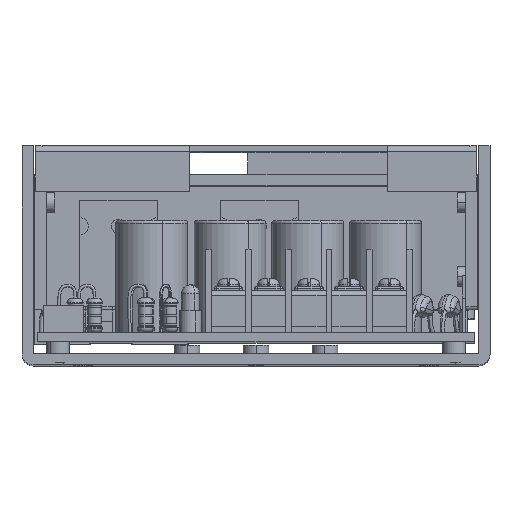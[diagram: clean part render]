
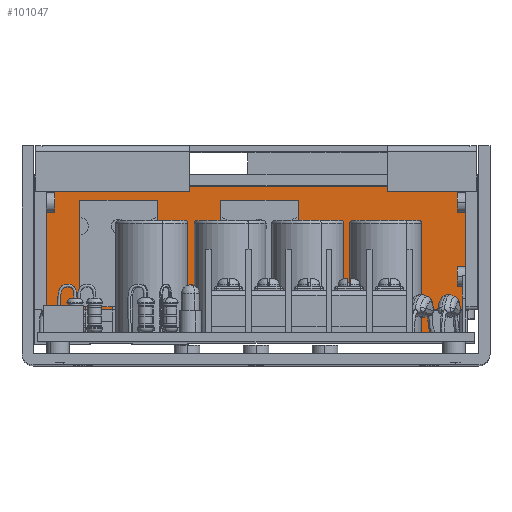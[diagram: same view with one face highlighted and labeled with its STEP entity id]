
A CAD part, top view. The second image highlights one B-rep face of the part: STEP entity #101047.
In plain terms, the highlighted planar face has unit normal (0, 0, 1).
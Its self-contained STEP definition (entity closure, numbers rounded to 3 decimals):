
#11122 = LINE ( 'NONE', #17804, #16695 ) ;
#11127 = LINE ( 'NONE', #17820, #16705 ) ;
#11142 = LINE ( 'NONE', #17871, #16734 ) ;
#16640 = CIRCLE ( 'NONE', #16642, 1.25 ) ;
#16642 = AXIS2_PLACEMENT_3D ( 'NONE', #17713, #17714, #17715 ) ;
#16646 = CIRCLE ( 'NONE', #16648, 1.25 ) ;
#16648 = AXIS2_PLACEMENT_3D ( 'NONE', #17723, #17724, #17725 ) ;
#16695 = VECTOR ( 'NONE', #17805, 1000. ) ;
#16705 = VECTOR ( 'NONE', #17821, 1000. ) ;
#16734 = VECTOR ( 'NONE', #17872, 1000. ) ;
#17085 = AXIS2_PLACEMENT_3D ( 'NONE', #21227, #21228, #21229 ) ;
#17130 = VECTOR ( 'NONE', #21356, 1000. ) ;
#17203 = CIRCLE ( 'NONE', #17241, 0.5 ) ;
#17212 = CIRCLE ( 'NONE', #17240, 1.25 ) ;
#17221 = CIRCLE ( 'NONE', #17238, 1.25 ) ;
#17238 = AXIS2_PLACEMENT_3D ( 'NONE', #21542, #21543, #21544 ) ;
#17240 = AXIS2_PLACEMENT_3D ( 'NONE', #21545, #21546, #21547 ) ;
#17241 = AXIS2_PLACEMENT_3D ( 'NONE', #21548, #21549, #21550 ) ;
#17242 = VECTOR ( 'NONE', #21552, 1000. ) ;
#17243 = CIRCLE ( 'NONE', #17248, 0.5 ) ;
#17245 = VECTOR ( 'NONE', #21556, 1000. ) ;
#17248 = AXIS2_PLACEMENT_3D ( 'NONE', #21559, #21560, #21561 ) ;
#17249 = VECTOR ( 'NONE', #21563, 1000. ) ;
#17251 = VECTOR ( 'NONE', #21567, 1000. ) ;
#17254 = VECTOR ( 'NONE', #21573, 1000. ) ;
#17256 = VECTOR ( 'NONE', #21577, 1000. ) ;
#17713 = CARTESIAN_POINT ( 'NONE',  ( -11.382, 7.232, 31.2 ) ) ;
#17714 = DIRECTION ( 'NONE',  ( 0., 0., -1. ) ) ;
#17715 = DIRECTION ( 'NONE',  ( 0., 1., 0. ) ) ;
#17723 = CARTESIAN_POINT ( 'NONE',  ( -35.882, 7.232, 31.2 ) ) ;
#17724 = DIRECTION ( 'NONE',  ( 0., 0., -1. ) ) ;
#17725 = DIRECTION ( 'NONE',  ( 0., 1., 0. ) ) ;
#17804 = CARTESIAN_POINT ( 'NONE',  ( 24.518, 16.232, 31.2 ) ) ;
#17805 = DIRECTION ( 'NONE',  ( 0., -1., 0. ) ) ;
#17820 = CARTESIAN_POINT ( 'NONE',  ( -48.482, 16.232, 31.2 ) ) ;
#17821 = DIRECTION ( 'NONE',  ( 0., -1., 0. ) ) ;
#17871 = CARTESIAN_POINT ( 'NONE',  ( -48.482, -7.268, 31.2 ) ) ;
#17872 = DIRECTION ( 'NONE',  ( 1., 0., 0. ) ) ;
#19959 = FACE_BOUND ( 'NONE', #155022, .T. ) ;
#19960 = FACE_BOUND ( 'NONE', #155025, .T. ) ;
#19961 = FACE_OUTER_BOUND ( 'NONE', #155027, .T. ) ;
#20020 = LINE ( 'NONE', #21355, #17130 ) ;
#20079 = LINE ( 'NONE', #21551, #17242 ) ;
#20081 = LINE ( 'NONE', #21555, #17245 ) ;
#20083 = LINE ( 'NONE', #21562, #17249 ) ;
#20085 = LINE ( 'NONE', #21566, #17251 ) ;
#20088 = LINE ( 'NONE', #21572, #17254 ) ;
#20090 = LINE ( 'NONE', #21576, #17256 ) ;
#21226 = PLANE ( 'NONE',  #17085 ) ;
#21227 = CARTESIAN_POINT ( 'NONE',  ( -48.482, 16.232, 31.2 ) ) ;
#21228 = DIRECTION ( 'NONE',  ( 0., 0., -1. ) ) ;
#21229 = DIRECTION ( 'NONE',  ( 0., 1., 0. ) ) ;
#21355 = CARTESIAN_POINT ( 'NONE',  ( -48.482, -7.268, 31.2 ) ) ;
#21356 = DIRECTION ( 'NONE',  ( 1., 0., 0. ) ) ;
#21542 = CARTESIAN_POINT ( 'NONE',  ( -11.382, 7.232, 31.2 ) ) ;
#21543 = DIRECTION ( 'NONE',  ( 0., 0., -1. ) ) ;
#21544 = DIRECTION ( 'NONE',  ( 0., 1., 0. ) ) ;
#21545 = CARTESIAN_POINT ( 'NONE',  ( -35.882, 7.232, 31.2 ) ) ;
#21546 = DIRECTION ( 'NONE',  ( 0., 0., -1. ) ) ;
#21547 = DIRECTION ( 'NONE',  ( 0., 1., 0. ) ) ;
#21548 = CARTESIAN_POINT ( 'NONE',  ( 16.199, -10.768, 31.2 ) ) ;
#21549 = DIRECTION ( 'NONE',  ( 0., 0., 1. ) ) ;
#21550 = DIRECTION ( 'NONE',  ( 0., 1., 0. ) ) ;
#21551 = CARTESIAN_POINT ( 'NONE',  ( 15.699, -11.268, 31.2 ) ) ;
#21552 = DIRECTION ( 'NONE',  ( 0., 1., 0. ) ) ;
#21555 = CARTESIAN_POINT ( 'NONE',  ( 15.699, -11.268, 31.2 ) ) ;
#21556 = DIRECTION ( 'NONE',  ( -1., 0., 0. ) ) ;
#21559 = CARTESIAN_POINT ( 'NONE',  ( 18.199, -10.768, 31.2 ) ) ;
#21560 = DIRECTION ( 'NONE',  ( 0., 0., 1. ) ) ;
#21561 = DIRECTION ( 'NONE',  ( 0., 1., 0. ) ) ;
#21562 = CARTESIAN_POINT ( 'NONE',  ( 18.699, -11.268, 31.2 ) ) ;
#21563 = DIRECTION ( 'NONE',  ( 0., 1., 0. ) ) ;
#21566 = CARTESIAN_POINT ( 'NONE',  ( -48.482, 14.232, 31.2 ) ) ;
#21567 = DIRECTION ( 'NONE',  ( -1., 0., 0. ) ) ;
#21572 = CARTESIAN_POINT ( 'NONE',  ( -46.482, 14.232, 31.2 ) ) ;
#21573 = DIRECTION ( 'NONE',  ( 1., 0., 0. ) ) ;
#21576 = CARTESIAN_POINT ( 'NONE',  ( -48.482, 14.232, 31.2 ) ) ;
#21577 = DIRECTION ( 'NONE',  ( -1., 0., 0. ) ) ;
#73878 = CARTESIAN_POINT ( 'NONE',  ( -11.382, 5.982, 31.2 ) ) ;
#73879 = CARTESIAN_POINT ( 'NONE',  ( -11.382, 8.482, 31.2 ) ) ;
#73882 = CARTESIAN_POINT ( 'NONE',  ( -35.882, 5.982, 31.2 ) ) ;
#73883 = CARTESIAN_POINT ( 'NONE',  ( -35.882, 8.482, 31.2 ) ) ;
#73916 = CARTESIAN_POINT ( 'NONE',  ( 24.518, 14.232, 31.2 ) ) ;
#73917 = CARTESIAN_POINT ( 'NONE',  ( 24.518, -7.268, 31.2 ) ) ;
#73922 = CARTESIAN_POINT ( 'NONE',  ( -48.482, -7.268, 31.2 ) ) ;
#73923 = CARTESIAN_POINT ( 'NONE',  ( -48.482, 14.232, 31.2 ) ) ;
#73941 = CARTESIAN_POINT ( 'NONE',  ( 15.699, -7.268, 31.2 ) ) ;
#73944 = CARTESIAN_POINT ( 'NONE',  ( 18.699, -7.268, 31.2 ) ) ;
#73998 = CARTESIAN_POINT ( 'NONE',  ( 15.699, -10.768, 31.2 ) ) ;
#73999 = CARTESIAN_POINT ( 'NONE',  ( 16.199, -11.268, 31.2 ) ) ;
#74000 = CARTESIAN_POINT ( 'NONE',  ( 18.199, -11.268, 31.2 ) ) ;
#74001 = CARTESIAN_POINT ( 'NONE',  ( 18.699, -10.768, 31.2 ) ) ;
#74002 = CARTESIAN_POINT ( 'NONE',  ( 22.518, 14.232, 31.2 ) ) ;
#74003 = CARTESIAN_POINT ( 'NONE',  ( -46.482, 14.232, 31.2 ) ) ;
#97116 = EDGE_CURVE ( 'NONE', #156683, #156684, #16640, .T. ) ;
#97120 = EDGE_CURVE ( 'NONE', #156687, #156688, #16646, .T. ) ;
#97154 = EDGE_CURVE ( 'NONE', #156721, #156722, #11122, .T. ) ;
#97161 = EDGE_CURVE ( 'NONE', #156728, #156727, #11127, .T. ) ;
#97183 = EDGE_CURVE ( 'NONE', #156727, #156746, #11142, .T. ) ;
#100126 = ORIENTED_EDGE ( 'NONE', *, *, #101174, .T. ) ;
#100130 = ORIENTED_EDGE ( 'NONE', *, *, #101173, .T. ) ;
#100136 = ORIENTED_EDGE ( 'NONE', *, *, #101176, .F. ) ;
#100139 = ORIENTED_EDGE ( 'NONE', *, *, #97116, .T. ) ;
#100147 = ORIENTED_EDGE ( 'NONE', *, *, #97120, .T. ) ;
#100153 = ORIENTED_EDGE ( 'NONE', *, *, #101178, .F. ) ;
#100157 = ORIENTED_EDGE ( 'NONE', *, *, #101175, .T. ) ;
#100160 = ORIENTED_EDGE ( 'NONE', *, *, #101180, .T. ) ;
#100165 = ORIENTED_EDGE ( 'NONE', *, *, #101181, .T. ) ;
#100168 = ORIENTED_EDGE ( 'NONE', *, *, #101091, .T. ) ;
#100173 = ORIENTED_EDGE ( 'NONE', *, *, #101183, .T. ) ;
#100176 = ORIENTED_EDGE ( 'NONE', *, *, #97154, .F. ) ;
#100181 = ORIENTED_EDGE ( 'NONE', *, *, #101188, .T. ) ;
#100183 = ORIENTED_EDGE ( 'NONE', *, *, #101186, .F. ) ;
#100187 = ORIENTED_EDGE ( 'NONE', *, *, #97161, .T. ) ;
#100195 = ORIENTED_EDGE ( 'NONE', *, *, #97183, .T. ) ;
#101047 = ADVANCED_FACE ( 'NONE', ( #19959, #19960, #19961 ), #21226, .F. ) ;
#101091 = EDGE_CURVE ( 'NONE', #156749, #156722, #20020, .T. ) ;
#101173 = EDGE_CURVE ( 'NONE', #156684, #156683, #17221, .T. ) ;
#101174 = EDGE_CURVE ( 'NONE', #156688, #156687, #17212, .T. ) ;
#101175 = EDGE_CURVE ( 'NONE', #156803, #156804, #17203, .T. ) ;
#101176 = EDGE_CURVE ( 'NONE', #156803, #156746, #20079, .T. ) ;
#101178 = EDGE_CURVE ( 'NONE', #156805, #156804, #20081, .T. ) ;
#101180 = EDGE_CURVE ( 'NONE', #156805, #156806, #17243, .T. ) ;
#101181 = EDGE_CURVE ( 'NONE', #156806, #156749, #20083, .T. ) ;
#101183 = EDGE_CURVE ( 'NONE', #156721, #156807, #20085, .T. ) ;
#101186 = EDGE_CURVE ( 'NONE', #156808, #156807, #20088, .T. ) ;
#101188 = EDGE_CURVE ( 'NONE', #156808, #156728, #20090, .T. ) ;
#155022 = EDGE_LOOP ( 'NONE', ( #100130, #100139 ) ) ;
#155025 = EDGE_LOOP ( 'NONE', ( #100126, #100147 ) ) ;
#155027 = EDGE_LOOP ( 'NONE', ( #100136, #100157, #100153, #100160, #100165, #100168, #100176, #100173, #100183, #100181, #100187, #100195 ) ) ;
#156683 = VERTEX_POINT ( 'NONE', #73878 ) ;
#156684 = VERTEX_POINT ( 'NONE', #73879 ) ;
#156687 = VERTEX_POINT ( 'NONE', #73882 ) ;
#156688 = VERTEX_POINT ( 'NONE', #73883 ) ;
#156721 = VERTEX_POINT ( 'NONE', #73916 ) ;
#156722 = VERTEX_POINT ( 'NONE', #73917 ) ;
#156727 = VERTEX_POINT ( 'NONE', #73922 ) ;
#156728 = VERTEX_POINT ( 'NONE', #73923 ) ;
#156746 = VERTEX_POINT ( 'NONE', #73941 ) ;
#156749 = VERTEX_POINT ( 'NONE', #73944 ) ;
#156803 = VERTEX_POINT ( 'NONE', #73998 ) ;
#156804 = VERTEX_POINT ( 'NONE', #73999 ) ;
#156805 = VERTEX_POINT ( 'NONE', #74000 ) ;
#156806 = VERTEX_POINT ( 'NONE', #74001 ) ;
#156807 = VERTEX_POINT ( 'NONE', #74002 ) ;
#156808 = VERTEX_POINT ( 'NONE', #74003 ) ;
